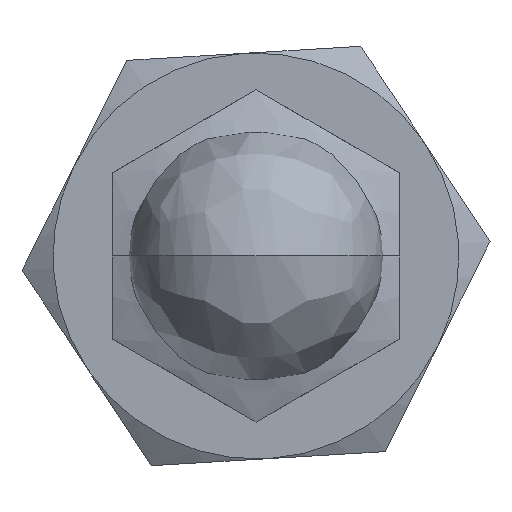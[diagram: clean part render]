
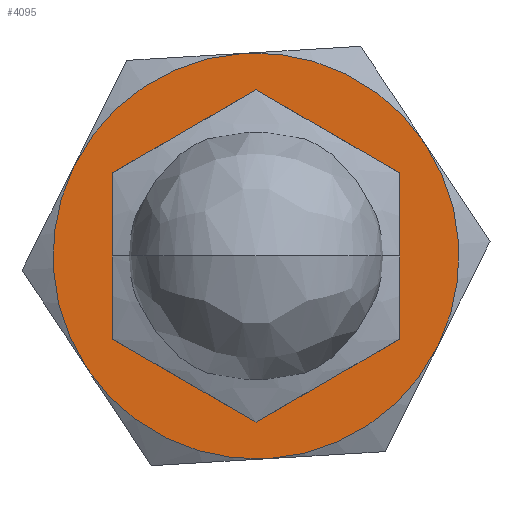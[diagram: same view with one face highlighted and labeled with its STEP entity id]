
A CAD part, front view. The second image highlights one B-rep face of the part: STEP entity #4095.
In plain terms, the highlighted planar face has unit normal (0, -1, 0).
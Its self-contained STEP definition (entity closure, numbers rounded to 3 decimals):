
#941 = DIRECTION ( 'NONE',  ( 0.834, 0., 0.551 ) ) ;
#983 = CARTESIAN_POINT ( 'NONE',  ( -66.855, 128.608, 10.06 ) ) ;
#1291 = AXIS2_PLACEMENT_3D ( 'NONE', #14811, #5002, #7759 ) ;
#1406 = AXIS2_PLACEMENT_3D ( 'NONE', #12886, #9189, #941 ) ;
#1560 = CIRCLE ( 'NONE', #1291, 8. ) ;
#1613 = DIRECTION ( 'NONE',  ( 0.834, 0., 0.551 ) ) ;
#1632 = ORIENTED_EDGE ( 'NONE', *, *, #11886, .F. ) ;
#1677 = DIRECTION ( 'NONE',  ( -0.834, 0., -0.551 ) ) ;
#1899 = EDGE_CURVE ( 'NONE', #5170, #4618, #8210, .T. ) ;
#2196 = CARTESIAN_POINT ( 'NONE',  ( -56.841, 128.608, 16.673 ) ) ;
#2818 = DIRECTION ( 'NONE',  ( 0., -1., 0. ) ) ;
#3414 = CARTESIAN_POINT ( 'NONE',  ( -56.841, 128.608, 16.673 ) ) ;
#3731 = CIRCLE ( 'NONE', #12431, 12. ) ;
#3969 = EDGE_LOOP ( 'NONE', ( #1632, #8873, #15230, #13678, #9686, #4893 ) ) ;
#4084 = CIRCLE ( 'NONE', #8091, 12. ) ;
#4095 = ADVANCED_FACE ( 'NONE', ( #12613, #6614 ), #10017, .T. ) ;
#4174 = CARTESIAN_POINT ( 'NONE',  ( -64.478, 128.608, 28.235 ) ) ;
#4618 = VERTEX_POINT ( 'NONE', #8838 ) ;
#4893 = ORIENTED_EDGE ( 'NONE', *, *, #9210, .F. ) ;
#5002 = DIRECTION ( 'NONE',  ( 0., 1., 0. ) ) ;
#5057 = VERTEX_POINT ( 'NONE', #5101 ) ;
#5101 = CARTESIAN_POINT ( 'NONE',  ( -56.121, 128.608, 4.694 ) ) ;
#5170 = VERTEX_POINT ( 'NONE', #983 ) ;
#5621 = ORIENTED_EDGE ( 'NONE', *, *, #6450, .T. ) ;
#5722 = CARTESIAN_POINT ( 'NONE',  ( -56.841, 128.608, 16.673 ) ) ;
#6014 = DIRECTION ( 'NONE',  ( 0.834, 0., 0.551 ) ) ;
#6450 = EDGE_CURVE ( 'NONE', #13321, #15120, #1560, .T. ) ;
#6546 = CARTESIAN_POINT ( 'NONE',  ( -56.841, 128.608, 16.673 ) ) ;
#6614 = FACE_OUTER_BOUND ( 'NONE', #3969, .T. ) ;
#6670 = CIRCLE ( 'NONE', #10660, 12. ) ;
#7113 = EDGE_LOOP ( 'NONE', ( #5621, #9398 ) ) ;
#7758 = EDGE_CURVE ( 'NONE', #15120, #13321, #15231, .T. ) ;
#7759 = DIRECTION ( 'NONE',  ( 0.834, 0., 0.551 ) ) ;
#8091 = AXIS2_PLACEMENT_3D ( 'NONE', #5722, #10511, #12958 ) ;
#8191 = DIRECTION ( 'NONE',  ( 0.834, 0., 0.551 ) ) ;
#8210 = CIRCLE ( 'NONE', #14561, 12. ) ;
#8345 = DIRECTION ( 'NONE',  ( 0., 1., 0. ) ) ;
#8353 = CIRCLE ( 'NONE', #13316, 12. ) ;
#8757 = CARTESIAN_POINT ( 'NONE',  ( -46.108, 128.608, 11.308 ) ) ;
#8802 = DIRECTION ( 'NONE',  ( 0., 1., 0. ) ) ;
#8838 = CARTESIAN_POINT ( 'NONE',  ( -67.575, 128.608, 22.038 ) ) ;
#8862 = DIRECTION ( 'NONE',  ( 0., 1., 0. ) ) ;
#8873 = ORIENTED_EDGE ( 'NONE', *, *, #12848, .F. ) ;
#8893 = CARTESIAN_POINT ( 'NONE',  ( -63.517, 128.608, 12.264 ) ) ;
#8908 = DIRECTION ( 'NONE',  ( 0.834, 0., 0.551 ) ) ;
#9189 = DIRECTION ( 'NONE',  ( 0., 1., 0. ) ) ;
#9210 = EDGE_CURVE ( 'NONE', #12106, #5057, #6670, .T. ) ;
#9398 = ORIENTED_EDGE ( 'NONE', *, *, #7758, .T. ) ;
#9515 = DIRECTION ( 'NONE',  ( 0., 1., 0. ) ) ;
#9686 = ORIENTED_EDGE ( 'NONE', *, *, #13533, .F. ) ;
#9928 = VERTEX_POINT ( 'NONE', #13680 ) ;
#10017 = PLANE ( 'NONE',  #10504 ) ;
#10042 = VERTEX_POINT ( 'NONE', #10860 ) ;
#10146 = CARTESIAN_POINT ( 'NONE',  ( -50.166, 128.608, 21.082 ) ) ;
#10504 = AXIS2_PLACEMENT_3D ( 'NONE', #4174, #2818, #1613 ) ;
#10511 = DIRECTION ( 'NONE',  ( 0., 1., 0. ) ) ;
#10660 = AXIS2_PLACEMENT_3D ( 'NONE', #6546, #8802, #8908 ) ;
#10860 = CARTESIAN_POINT ( 'NONE',  ( -57.562, 128.608, 28.651 ) ) ;
#11312 = EDGE_CURVE ( 'NONE', #4618, #10042, #11970, .T. ) ;
#11755 = DIRECTION ( 'NONE',  ( 0.834, 0., 0.551 ) ) ;
#11886 = EDGE_CURVE ( 'NONE', #9928, #12106, #4084, .T. ) ;
#11970 = CIRCLE ( 'NONE', #14588, 12. ) ;
#11993 = DIRECTION ( 'NONE',  ( 0., 1., 0. ) ) ;
#12106 = VERTEX_POINT ( 'NONE', #8757 ) ;
#12431 = AXIS2_PLACEMENT_3D ( 'NONE', #3414, #9515, #11755 ) ;
#12613 = FACE_BOUND ( 'NONE', #7113, .T. ) ;
#12848 = EDGE_CURVE ( 'NONE', #10042, #9928, #8353, .T. ) ;
#12886 = CARTESIAN_POINT ( 'NONE',  ( -56.841, 128.608, 16.673 ) ) ;
#12958 = DIRECTION ( 'NONE',  ( 0.834, 0., 0.551 ) ) ;
#13112 = CARTESIAN_POINT ( 'NONE',  ( -56.841, 128.608, 16.673 ) ) ;
#13316 = AXIS2_PLACEMENT_3D ( 'NONE', #2196, #11993, #6014 ) ;
#13321 = VERTEX_POINT ( 'NONE', #8893 ) ;
#13533 = EDGE_CURVE ( 'NONE', #5057, #5170, #3731, .T. ) ;
#13678 = ORIENTED_EDGE ( 'NONE', *, *, #1899, .F. ) ;
#13680 = CARTESIAN_POINT ( 'NONE',  ( -46.828, 128.608, 23.286 ) ) ;
#14561 = AXIS2_PLACEMENT_3D ( 'NONE', #14810, #8862, #1677 ) ;
#14588 = AXIS2_PLACEMENT_3D ( 'NONE', #13112, #8345, #8191 ) ;
#14810 = CARTESIAN_POINT ( 'NONE',  ( -56.841, 128.608, 16.673 ) ) ;
#14811 = CARTESIAN_POINT ( 'NONE',  ( -56.841, 128.608, 16.673 ) ) ;
#15120 = VERTEX_POINT ( 'NONE', #10146 ) ;
#15230 = ORIENTED_EDGE ( 'NONE', *, *, #11312, .F. ) ;
#15231 = CIRCLE ( 'NONE', #1406, 8. ) ;
